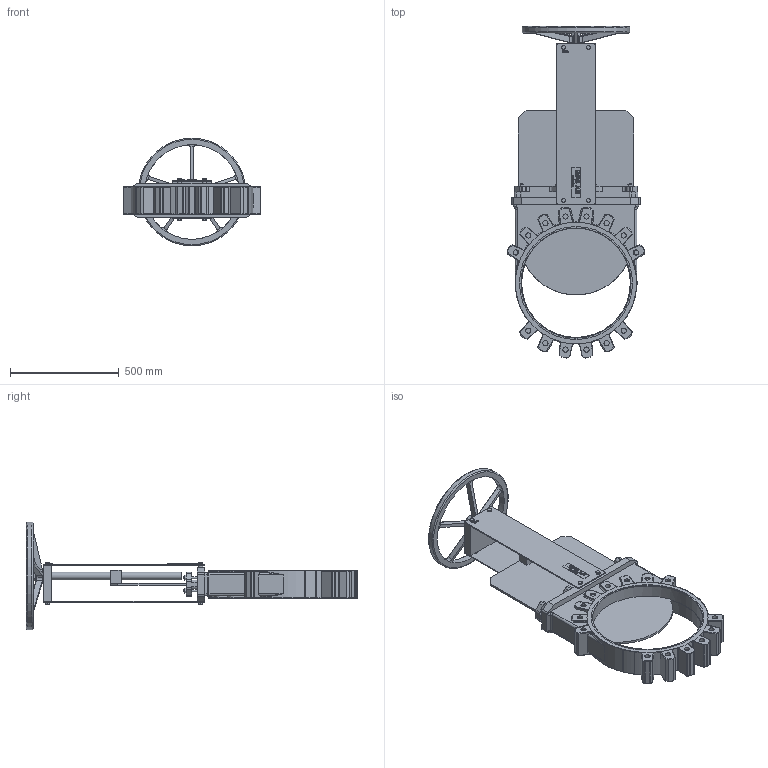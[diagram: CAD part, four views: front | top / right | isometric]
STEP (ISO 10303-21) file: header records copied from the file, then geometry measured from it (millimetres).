
FILE_DESCRIPTION((''),'2;1');
FILE_NAME('Z:\Kunder\BPS\BPS Produkter\BPS 2015\DN 500\Ritningar\BPS 2015500.stp','2012-12-28T10:58:27',('James'),(''),'Autodesk Inventor 2013','Autodesk Inventor 2013','');
FILE_SCHEMA(('AUTOMOTIVE_DESIGN { 1 2 10303 214 0 1 1 1 }'));
Length unit declared in the file: millimetre
Products named in the file (2): BPS 2015500 (SubstituteLevelofDetail1); BPS 2015500
Assembly tree (1 placements, depth 2):
  BPS 2015500 (SubstituteLevelofDetail1)
    BPS 2015500
Bounding box: 633.36 x 1527.81 x 495 mm (x, y, z)
Volume: 30447656 mm3; surface area: 2643322 mm2
Topology: 2 solids, 14 shells, 1784 faces, 4318 edges, 2674 vertices
Faces by surface type: plane 763, cylinder 527, bspline 246, sphere 100, torus 91, cone 57
Full cylindrical faces by diameter (mm): 8 x2, 10 x20, 12 x8, 13 x8, 16.63 x8, 20 x2, 24 x28, 35 x3, 435 x1, 495 x1, 500 x1, 505 x1
Entity records: 61371 total; most frequent: CARTESIAN_POINT 19670, ORIENTED_EDGE 8364, DIRECTION 7815, EDGE_CURVE 4182, AXIS2_PLACEMENT_3D 2793, VERTEX_POINT 2649, VECTOR 2229, LINE 2229
